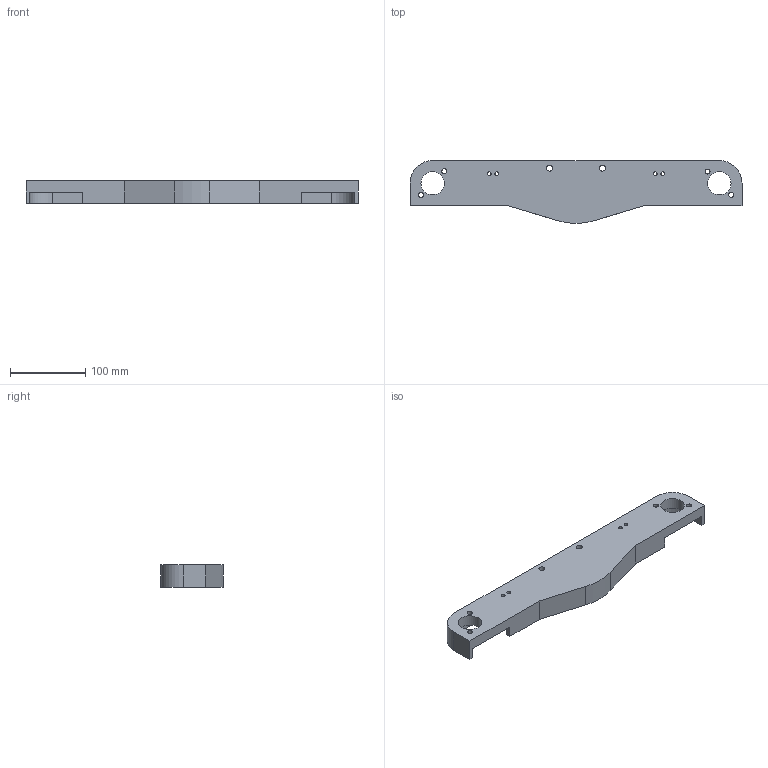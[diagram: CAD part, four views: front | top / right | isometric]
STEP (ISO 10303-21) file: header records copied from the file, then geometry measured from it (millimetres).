
FILE_DESCRIPTION(('FreeCAD Model'),'2;1');
FILE_NAME('Open CASCADE Shape Model','2026-07-06T10:11:50',(''),(''), 'Open CASCADE STEP processor 7.6','FreeCAD','Unknown');
FILE_SCHEMA(('AUTOMOTIVE_DESIGN { 1 0 10303 214 1 1 1 1 }'));
Length unit declared in the file: millimetre
Products named in the file (1): Основание сторона 1
Bounding box: 440 x 83.33 x 30 mm (x, y, z)
Volume: 442206.2 mm3; surface area: 95129.4 mm2
Topology: 1 solids, 1 shells, 311 faces, 678 edges, 380 vertices
Faces by surface type: bspline 180, cylinder 86, plane 45
Full cylindrical faces by diameter (mm): 3.322 x14, 5 x4, 5.026 x40, 6.6 x4, 8 x2, 11 x4, 31 x2
Entity records: 28125 total; most frequent: CARTESIAN_POINT 22727, ORIENTED_EDGE 1356, EDGE_CURVE 678, DIRECTION 584, B_SPLINE_CURVE_WITH_KNOTS 428, VERTEX_POINT 380, FACE_BOUND 346, EDGE_LOOP 346
